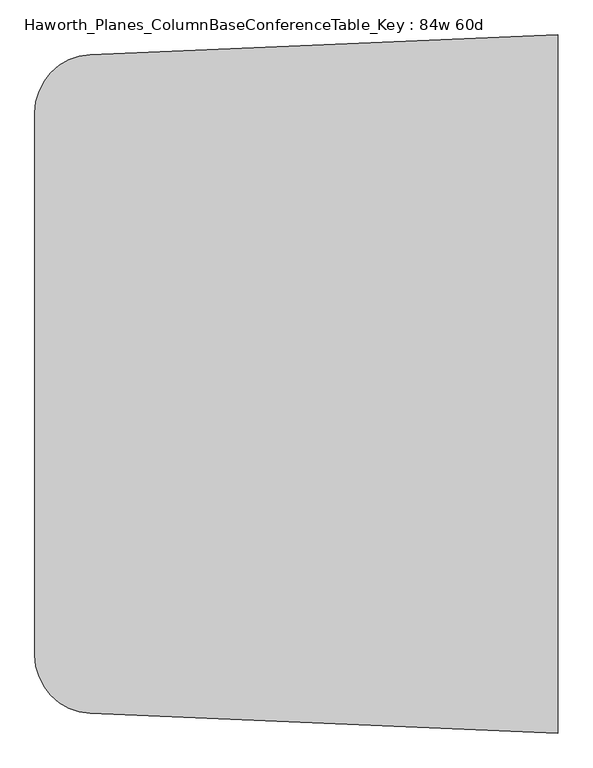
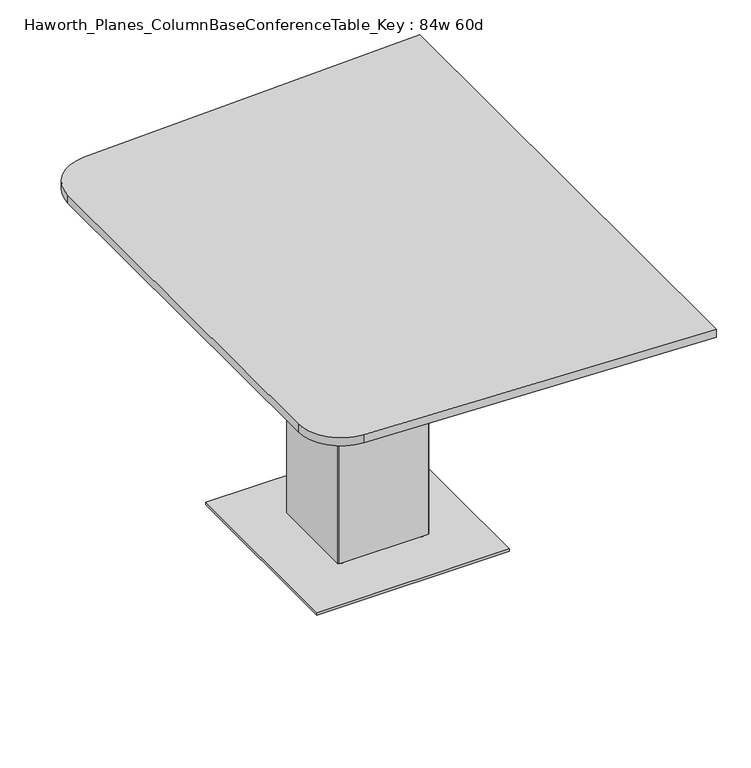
"""IFC4 building model written with IfcOpenShell, lengths in millimetres: furniture geometry, Haworth_Planes_ColumnBaseConferenceTable_Key : 84w 60d."""

from ifc_helpers import new_model, si_unit, point, frame, frame_2d, origin, origin_with_axes, place, context, project, spatial, polyline, circle_curve, trimmed, segment, composite_curve, outline, extrude, source, transform, mapped, element, save


def haworth_planes_columnbaseconferencetable_key_84w_60d_c3e30df3(model_context):
    return source(origin(), model_context, "Body", "SweptSolid", [
        extrude(outline(composite_curve([segment(polyline([(685.8, -918.4299408), (-540.7118668, -866.8366481)]), True, "CONTINUOUS"), segment(trimmed(circle_curve(frame_2d((-533.4, -714.612154)), 152.4), [point((-540.7118668, -866.8366481))], [point((-685.8, -714.612154))], False, "CARTESIAN"), True, "CONTINUOUS"), segment(polyline([(-685.8, -714.612154), (-685.8, 706.5522724)]), True, "CONTINUOUS"), segment(trimmed(circle_curve(frame_2d((-533.4, 706.5522724)), 152.4), [point((-685.8, 706.5522724))], [point((-540.7118668, 858.7767665))], False, "CARTESIAN"), True, "CONTINUOUS"), segment(polyline([(-540.7118668, 858.7767665), (685.8, 910.3700592), (685.8, -918.4299408)]), True, "CONTINUOUS")], self_intersect=False)), frame((0.0, 0.0, 1011.2375), z_axis=(0.0, 0.0, 1.0), x_axis=(1.0, 0.0, 0.0)), (0.0, 0.0, 1.0), 30.1625),
        extrude(outline(polyline([(279.4, 338.8700592), (279.4, -346.9299408), (-406.4, -346.9299408), (-406.4, 338.8700592), (279.4, 338.8700592)])), origin_with_axes(), (0.0, 0.0, 1.0), 9.525),
        extrude(outline(composite_curve([segment(trimmed(circle_curve(frame_2d((-206.375, 138.8450592)), 9.525), [point((-215.9, 138.8450592))], [point((-196.85, 138.8450592))], False, "CARTESIAN"), True, "CONTINUOUS"), segment(trimmed(circle_curve(frame_2d((-206.375, 138.8450592)), 9.525), [point((-196.85, 138.8450592))], [point((-215.9, 138.8450592))], False, "CARTESIAN"), True, "CONTINUOUS")], self_intersect=False)), frame((0.0, 0.0, 9.525), z_axis=(0.0, 0.0, 1.0), x_axis=(1.0, 0.0, 0.0)), (0.0, 0.0, 1.0), 1001.7125),
        extrude(outline(composite_curve([segment(trimmed(circle_curve(frame_2d((79.375, 138.8450592)), 9.525), [point((69.85, 138.8450592))], [point((88.9, 138.8450592))], False, "CARTESIAN"), True, "CONTINUOUS"), segment(trimmed(circle_curve(frame_2d((79.375, 138.8450592)), 9.525), [point((88.9, 138.8450592))], [point((69.85, 138.8450592))], False, "CARTESIAN"), True, "CONTINUOUS")], self_intersect=False)), frame((0.0, 0.0, 9.525), z_axis=(0.0, 0.0, 1.0), x_axis=(1.0, 0.0, 0.0)), (0.0, 0.0, 1.0), 1001.7125),
        extrude(outline(composite_curve([segment(trimmed(circle_curve(frame_2d((79.375, -146.9049408)), 9.525), [point((69.85, -146.9049408))], [point((88.9, -146.9049408))], False, "CARTESIAN"), True, "CONTINUOUS"), segment(trimmed(circle_curve(frame_2d((79.375, -146.9049408)), 9.525), [point((88.9, -146.9049408))], [point((69.85, -146.9049408))], False, "CARTESIAN"), True, "CONTINUOUS")], self_intersect=False)), frame((0.0, 0.0, 9.525), z_axis=(0.0, 0.0, 1.0), x_axis=(1.0, 0.0, 0.0)), (0.0, 0.0, 1.0), 1001.7125),
        extrude(outline(composite_curve([segment(trimmed(circle_curve(frame_2d((-206.375, -146.9049408)), 9.525), [point((-215.9, -146.9049408))], [point((-196.85, -146.9049408))], False, "CARTESIAN"), True, "CONTINUOUS"), segment(trimmed(circle_curve(frame_2d((-206.375, -146.9049408)), 9.525), [point((-196.85, -146.9049408))], [point((-215.9, -146.9049408))], False, "CARTESIAN"), True, "CONTINUOUS")], self_intersect=False)), frame((0.0, 0.0, 9.525), z_axis=(0.0, 0.0, 1.0), x_axis=(1.0, 0.0, 0.0)), (0.0, 0.0, 1.0), 1001.7125),
        extrude(outline(polyline([(95.25, -162.7799408), (95.25, -165.9549408), (-222.25, -165.9549408), (-222.25, -162.7799408), (95.25, -162.7799408)])), frame((0.0, 0.0, 19.05), z_axis=(0.0, 0.0, 1.0), x_axis=(1.0, 0.0, 0.0)), (0.0, 0.0, 1.0), 954.0875),
        extrude(outline(polyline([(98.425, 154.7200592), (98.425, -162.7799408), (95.25, -162.7799408), (95.25, 154.7200592), (98.425, 154.7200592)])), frame((0.0, 0.0, 19.05), z_axis=(0.0, 0.0, 1.0), x_axis=(1.0, 0.0, 0.0)), (0.0, 0.0, 1.0), 954.0875),
        extrude(outline(polyline([(95.25, 157.8950592), (95.25, 154.7200592), (-222.25, 154.7200592), (-222.25, 157.8950592), (95.25, 157.8950592)])), frame((0.0, 0.0, 19.05), z_axis=(0.0, 0.0, 1.0), x_axis=(1.0, 0.0, 0.0)), (0.0, 0.0, 1.0), 954.0875),
        extrude(outline(polyline([(-222.25, 154.7200592), (-222.25, -162.7799408), (-225.425, -162.7799408), (-225.425, 154.7200592), (-222.25, 154.7200592)])), frame((0.0, 0.0, 19.05), z_axis=(0.0, 0.0, 1.0), x_axis=(1.0, 0.0, 0.0)), (0.0, 0.0, 1.0), 954.0875),
    ])


if __name__ == "__main__":
    model = new_model("IFC4")
    model_context = context("Model", 3, world=origin())
    ifc_project = project(units=[si_unit("LENGTHUNIT", "METRE", prefix="MILLI")], contexts=[model_context])
    site = spatial("IfcSite", under=ifc_project)
    building = spatial("IfcBuilding", under=site)
    placement = place(None, origin())
    haworth_planes_columnbaseconferencetable_key_84w_60d_shape = haworth_planes_columnbaseconferencetable_key_84w_60d_c3e30df3(model_context)
    element("IfcFurniture", 1, ObjectType="Haworth_Planes_ColumnBaseConferenceTable_Key : 84w 60d", at=placement, inside=building, context=model_context, shape_type="MappedRepresentation", body=[
        mapped(haworth_planes_columnbaseconferencetable_key_84w_60d_shape, transform((0.0, 0.0, 0.0), x_axis=(1.0, 0.0, 0.0), y_axis=(0.0, 1.0, 0.0), z_axis=(0.0, 0.0, 1.0))),
    ])
    save(model, "model.ifc")
